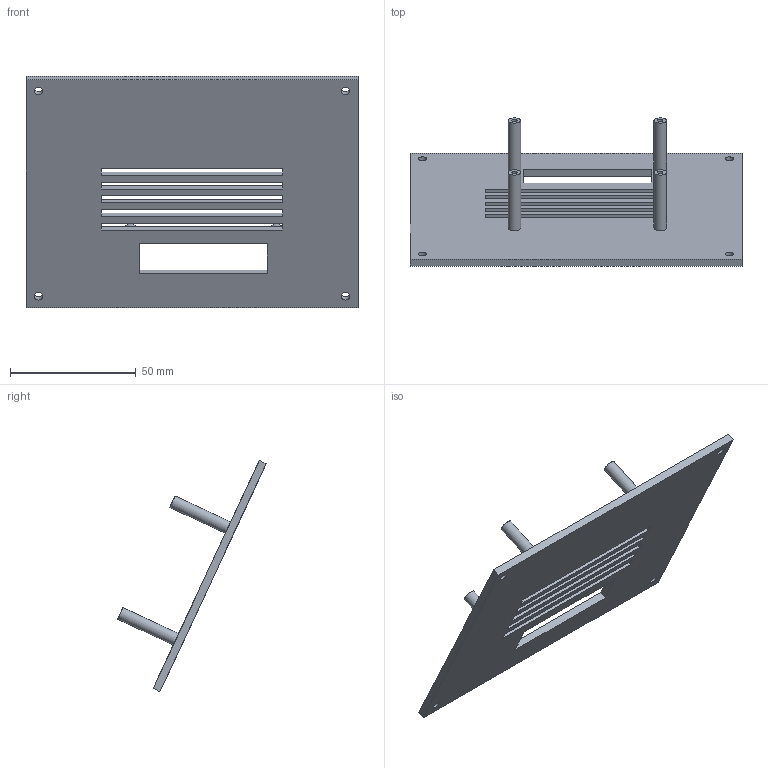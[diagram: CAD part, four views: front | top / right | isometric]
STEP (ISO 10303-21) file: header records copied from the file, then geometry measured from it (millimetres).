
FILE_DESCRIPTION(('Open CASCADE Model'),'2;1');
FILE_NAME('Open CASCADE Shape Model','2026-11-04T16:23:17',('Author'),( 'Open CASCADE'),'Open CASCADE STEP processor 7.8','Open CASCADE 7.8' ,'Unknown');
FILE_SCHEMA(('AUTOMOTIVE_DESIGN { 1 0 10303 214 1 1 1 1 }'));
Length unit declared in the file: millimetre
Products named in the file (1): Open CASCADE STEP translator 7.8 2
Bounding box: 132 x 59.06 x 91.9 mm (x, y, z)
Volume: 36062 mm3; surface area: 28750.3 mm2
Topology: 1 solids, 1 shells, 50 faces, 120 edges, 80 vertices
Faces by surface type: plane 38, cylinder 12
Full cylindrical faces by diameter (mm): 2.1 x4, 3.4 x4, 5 x4
Entity records: 3058 total; most frequent: CARTESIAN_POINT 491, DIRECTION 486, LINE 312, VECTOR 312, ORIENTED_EDGE 240, PCURVE 240, DEFINITIONAL_REPRESENTATION 240, EDGE_CURVE 120
